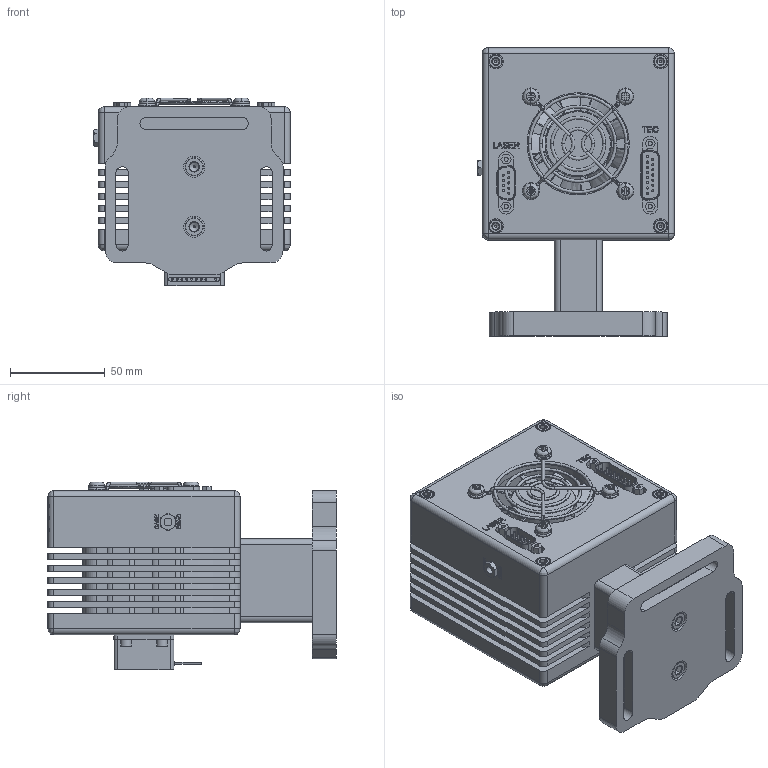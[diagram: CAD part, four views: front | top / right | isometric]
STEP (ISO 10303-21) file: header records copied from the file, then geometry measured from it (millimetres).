
FILE_DESCRIPTION (( 'STEP AP214' ), '1' );
FILE_NAME ('244-LaserMount.STEP', '2014-04-30T16:05:44', ( '' ), ( '' ), 'SwSTEP 2.0', 'SolidWorks 2014', '' );
FILE_SCHEMA (( 'AUTOMOTIVE_DESIGN' ));
Length unit declared in the file: inch
Products named in the file (1): 244-LaserMount
Bounding box: 103.89 x 152.4 x 99.25 mm (x, y, z)
Volume: 746869.6 mm3; surface area: 178218.8 mm2
Topology: 11 solids, 11 shells, 2609 faces, 6711 edges, 4363 vertices
Faces by surface type: plane 1319, bspline 694, cylinder 487, cone 109
Full cylindrical faces by diameter (mm): 1 x9, 1.143 x24, 1.3 x2, 1.6 x16, 2.05 x1, 2.134 x4, 2.261 x4, 2.5 x2, 2.705 x4, 3.048 x1, 3.099 x4, 3.175 x4, 3.505 x4, 4 x4, 4.166 x4, 4.216 x1, 5 x1, 5.105 x2, 5.74 x4, 6 x1, 6.35 x2, 6.528 x2, 6.756 x2, 6.858 x4, 7.938 x4, 8.179 x4, 9.525 x76, 11.113 x2, 17.5 x1, 35 x1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
Entity records: 138988 total; most frequent: CARTESIAN_POINT 55491, ORIENTED_EDGE 12812, DIRECTION 9998, EDGE_CURVE 6406, VERTEX_POINT 4308, LINE 3774, VECTOR 3774, EDGE_LOOP 3284
